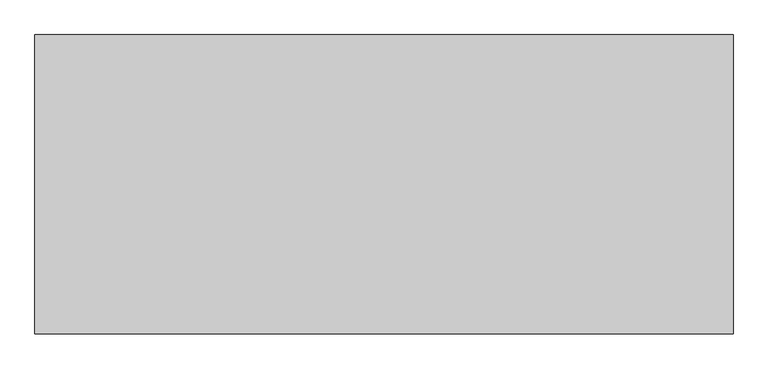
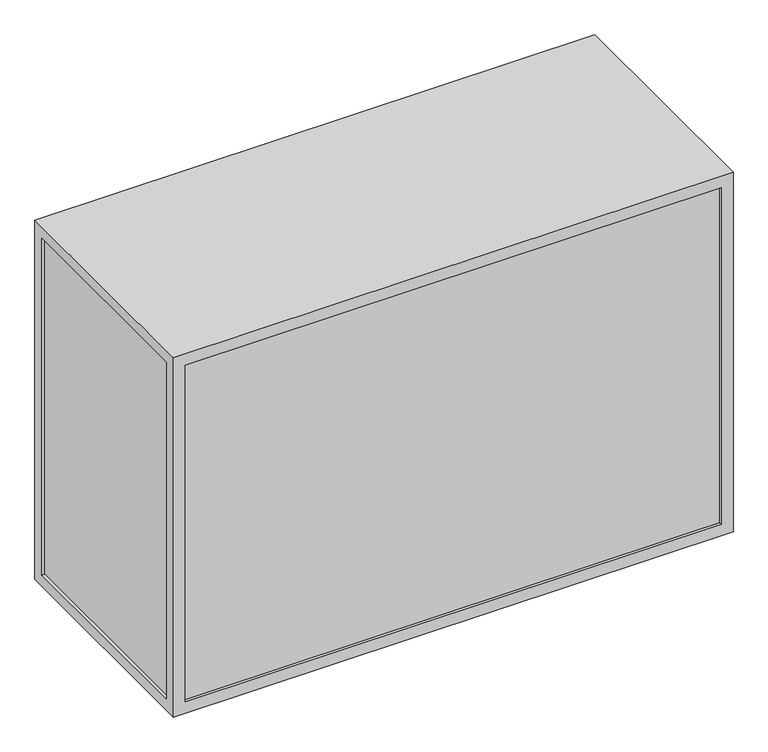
"""IFC4 building model written with IfcOpenShell, lengths in millimetres: furniture geometry, ARQ_MODULO_JAULA : ARQ_MODULO_JAULA."""

from ifc_helpers import new_model, si_unit, frame, origin, place, context, project, spatial, polyline, outline, extrude, faceted_brep, source, transform, mapped, element, save


def furniture_cada333b(model_context):
    return source(origin(), model_context, "Body", "SolidModel", [
        extrude(outline(polyline([(737.2003264, -30.0), (737.2003264, -570.0), (722.2003264, -570.0), (722.2003264, -30.0), (737.2003264, -30.0)])), frame((0.0, 0.0, 30.0), z_axis=(0.0, 0.0, 1.0), x_axis=(1.0, 0.0, 0.0)), (0.0, 0.0, 1.0), 890.0),
        extrude(outline(polyline([(-632.7996736, -30.0), (-632.7996736, -570.0), (-647.7996736, -570.0), (-647.7996736, -30.0), (-632.7996736, -30.0)])), frame((0.0, 0.0, 30.0), z_axis=(0.0, 0.0, 1.0), x_axis=(1.0, 0.0, 0.0)), (0.0, 0.0, 1.0), 890.0),
        extrude(outline(polyline([(714.7003264, -592.5), (-625.2996736, -592.5), (-625.2996736, -577.5), (714.7003264, -577.5), (714.7003264, -592.5)])), frame((0.0, 0.0, 30.0), z_axis=(0.0, 0.0, 1.0), x_axis=(1.0, 0.0, 0.0)), (0.0, 0.0, 1.0), 890.0),
        extrude(outline(polyline([(714.7003264, -22.5), (-625.2996736, -22.5), (-625.2996736, -7.5), (714.7003264, -7.5), (714.7003264, -22.5)])), frame((0.0, 0.0, 30.0), z_axis=(0.0, 0.0, 1.0), x_axis=(1.0, 0.0, 0.0)), (0.0, 0.0, 1.0), 890.0),
        faceted_brep([(-655.2996736, 0.0, 950.0), (-655.2996736, -600.0, 950.0), (744.7003264, -600.0, 950.0), (744.7003264, 0.0, 950.0), (-655.2996736, 0.0, 0.0), (744.7003264, 0.0, 0.0), (744.7003264, -600.0, 0.0), (-655.2996736, -600.0, 0.0), (-655.2996736, -30.0, 920.0), (-655.2996736, -570.0, 920.0), (-655.2996736, -570.0, 30.0), (-655.2996736, -30.0, 30.0), (-625.2996736, -600.0, 920.0), (714.7003264, -600.0, 920.0), (714.7003264, -600.0, 30.0), (-625.2996736, -600.0, 30.0), (744.7003264, -570.0, 920.0), (744.7003264, -30.0, 920.0), (744.7003264, -30.0, 30.0), (744.7003264, -570.0, 30.0), (714.7003264, 0.0, 920.0), (-625.2996736, 0.0, 920.0), (-625.2996736, 0.0, 30.0), (714.7003264, 0.0, 30.0), (714.7003264, -30.0, 920.0), (714.7003264, -570.0, 920.0), (-625.2996736, -570.0, 920.0), (-625.2996736, -30.0, 920.0), (714.7003264, -30.0, 30.0), (-625.2996736, -30.0, 30.0), (-625.2996736, -570.0, 30.0), (714.7003264, -570.0, 30.0)], [[[0, 1, 2, 3]], [[4, 5, 6, 7]], [[1, 0, 4, 7], [8, 9, 10, 11]], [[2, 1, 7, 6], [12, 13, 14, 15]], [[3, 2, 6, 5], [16, 17, 18, 19]], [[0, 3, 5, 4], [20, 21, 22, 23]], [[24, 17, 16, 25, 13, 12, 26, 9, 8, 27, 21, 20]], [[28, 23, 22, 29, 11, 10, 30, 15, 14, 31, 19, 18]], [[21, 27, 29, 22]], [[9, 26, 30, 10]], [[13, 25, 31, 14]], [[17, 24, 28, 18]], [[24, 20, 23, 28]], [[27, 8, 11, 29]], [[26, 12, 15, 30]], [[25, 16, 19, 31]]]),
    ])


if __name__ == "__main__":
    model = new_model("IFC4")
    model_context = context("Model", 3, world=origin())
    ifc_project = project(units=[si_unit("LENGTHUNIT", "METRE", prefix="MILLI")], contexts=[model_context])
    site = spatial("IfcSite", under=ifc_project)
    building = spatial("IfcBuilding", under=site)
    placement = place(None, origin())
    furniture_shape = furniture_cada333b(model_context)
    element("IfcFurniture", 1, ObjectType="ARQ_MODULO_JAULA : ARQ_MODULO_JAULA", at=placement, inside=building, context=model_context, shape_type="MappedRepresentation", body=[
        mapped(furniture_shape, transform((0.0, 0.0, 0.0), x_axis=(1.0, 0.0, 0.0), y_axis=(0.0, 1.0, 0.0), z_axis=(0.0, 0.0, 1.0))),
    ])
    save(model, "model.ifc")
